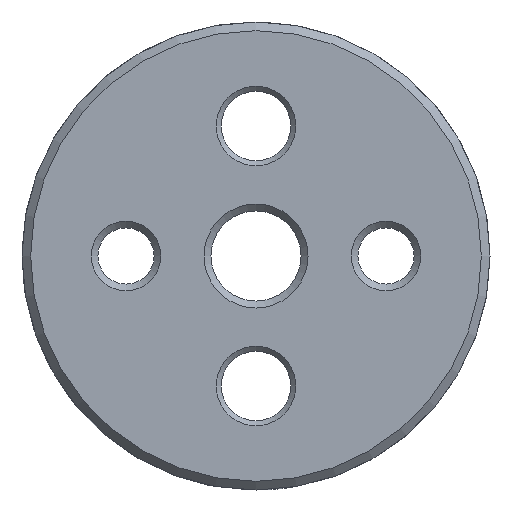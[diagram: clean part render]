
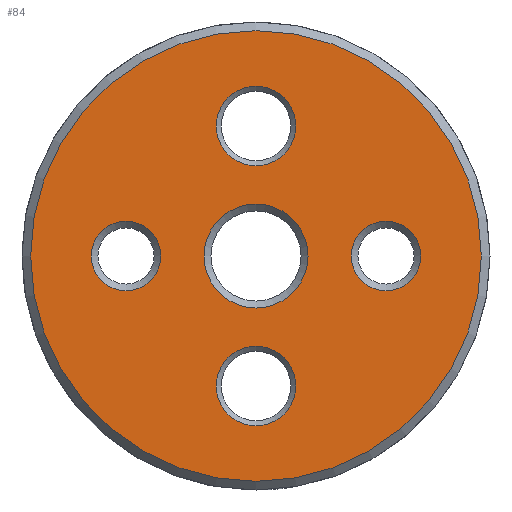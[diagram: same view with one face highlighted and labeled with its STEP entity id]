
A CAD part, front view. The second image highlights one B-rep face of the part: STEP entity #84.
In plain terms, the highlighted planar face has unit normal (0, -1, 0).
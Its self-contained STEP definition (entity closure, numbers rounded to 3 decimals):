
#84 = ADVANCED_FACE( '', ( #133, #134, #135, #136, #137, #138 ), #139, .F. );
#133 = FACE_BOUND( '', #223, .T. );
#134 = FACE_BOUND( '', #224, .T. );
#135 = FACE_BOUND( '', #225, .T. );
#136 = FACE_BOUND( '', #226, .T. );
#137 = FACE_BOUND( '', #227, .T. );
#138 = FACE_OUTER_BOUND( '', #228, .T. );
#139 = PLANE( '', #229 );
#223 = EDGE_LOOP( '', ( #362 ) );
#224 = EDGE_LOOP( '', ( #363 ) );
#225 = EDGE_LOOP( '', ( #364 ) );
#226 = EDGE_LOOP( '', ( #365 ) );
#227 = EDGE_LOOP( '', ( #366 ) );
#228 = EDGE_LOOP( '', ( #367 ) );
#229 = AXIS2_PLACEMENT_3D( '', #368, #369, #370 );
#362 = ORIENTED_EDGE( '', *, *, #528, .F. );
#363 = ORIENTED_EDGE( '', *, *, #529, .F. );
#364 = ORIENTED_EDGE( '', *, *, #530, .F. );
#365 = ORIENTED_EDGE( '', *, *, #531, .F. );
#366 = ORIENTED_EDGE( '', *, *, #532, .F. );
#367 = ORIENTED_EDGE( '', *, *, #527, .T. );
#368 = CARTESIAN_POINT( '', ( 13., 0., 0. ) );
#369 = DIRECTION( '', ( 0., 1., 0. ) );
#370 = DIRECTION( '', ( 0., 0., 1. ) );
#527 = EDGE_CURVE( '', #611, #611, #612, .T. );
#528 = EDGE_CURVE( '', #613, #613, #614, .T. );
#529 = EDGE_CURVE( '', #615, #615, #616, .F. );
#530 = EDGE_CURVE( '', #617, #617, #618, .T. );
#531 = EDGE_CURVE( '', #619, #619, #620, .T. );
#532 = EDGE_CURVE( '', #621, #621, #622, .T. );
#611 = VERTEX_POINT( '', #818 );
#612 = CIRCLE( '', #819, 13. );
#613 = VERTEX_POINT( '', #820 );
#614 = CIRCLE( '', #821, 3. );
#615 = VERTEX_POINT( '', #822 );
#616 = CIRCLE( '', #823, 2. );
#617 = VERTEX_POINT( '', #824 );
#618 = CIRCLE( '', #825, 2.3 );
#619 = VERTEX_POINT( '', #826 );
#620 = CIRCLE( '', #827, 2.3 );
#621 = VERTEX_POINT( '', #828 );
#622 = CIRCLE( '', #829, 2. );
#818 = CARTESIAN_POINT( '', ( 0., 0., -13. ) );
#819 = AXIS2_PLACEMENT_3D( '', #931, #932, #933 );
#820 = CARTESIAN_POINT( '', ( 0., 0., -3. ) );
#821 = AXIS2_PLACEMENT_3D( '', #934, #935, #936 );
#822 = CARTESIAN_POINT( '', ( 7.5, 0., 2. ) );
#823 = AXIS2_PLACEMENT_3D( '', #937, #938, #939 );
#824 = CARTESIAN_POINT( '', ( 0., 0., 5.2 ) );
#825 = AXIS2_PLACEMENT_3D( '', #940, #941, #942 );
#826 = CARTESIAN_POINT( '', ( 0., 0., -9.8 ) );
#827 = AXIS2_PLACEMENT_3D( '', #943, #944, #945 );
#828 = CARTESIAN_POINT( '', ( -7.5, 0., -2. ) );
#829 = AXIS2_PLACEMENT_3D( '', #946, #947, #948 );
#931 = CARTESIAN_POINT( '', ( 0., 0., 0. ) );
#932 = DIRECTION( '', ( 0., -1., 0. ) );
#933 = DIRECTION( '', ( 0., 0., -1. ) );
#934 = CARTESIAN_POINT( '', ( 0., 0., 0. ) );
#935 = DIRECTION( '', ( 0., -1., 0. ) );
#936 = DIRECTION( '', ( 0., 0., -1. ) );
#937 = CARTESIAN_POINT( '', ( 7.5, 0., 0. ) );
#938 = DIRECTION( '', ( 0., 1., 0. ) );
#939 = DIRECTION( '', ( 0., 0., 1. ) );
#940 = CARTESIAN_POINT( '', ( 0., 0., 7.5 ) );
#941 = DIRECTION( '', ( 0., -1., 0. ) );
#942 = DIRECTION( '', ( 0., 0., -1. ) );
#943 = CARTESIAN_POINT( '', ( 0., 0., -7.5 ) );
#944 = DIRECTION( '', ( 0., -1., 0. ) );
#945 = DIRECTION( '', ( 0., 0., -1. ) );
#946 = CARTESIAN_POINT( '', ( -7.5, 0., 0. ) );
#947 = DIRECTION( '', ( 0., -1., 0. ) );
#948 = DIRECTION( '', ( 0., 0., -1. ) );
